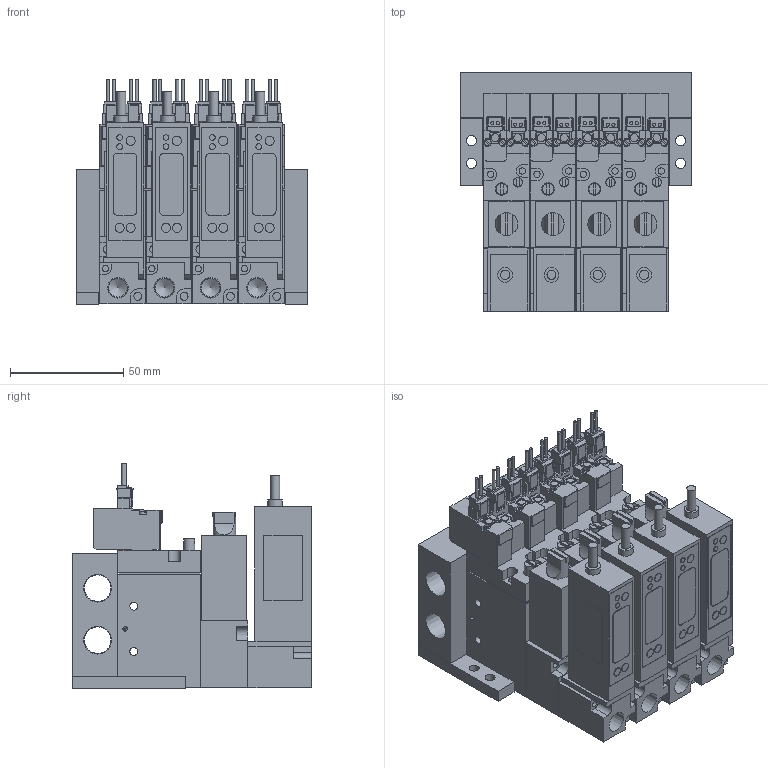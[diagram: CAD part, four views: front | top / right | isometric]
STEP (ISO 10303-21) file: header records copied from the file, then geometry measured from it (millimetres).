
FILE_DESCRIPTION(('STEP AP203'),'1');
FILE_NAME('BMPV32M2NV(R)G25AL404.stp','2025-06-17T00:49:22',(' '),(' '),'Spatial InterOp 3D',' ',' ');
FILE_SCHEMA(('CONFIG_CONTROL_DESIGN'));
Length unit declared in the file: millimetre
Products named in the file (52): BMPV32M2NV(R)G25AL404; Pressure sensor VGL; ___-3(Rc); Filter Assy; __; _____; ___ ___; MB04; MB BRACKET; ___; upper plate-A; ______; ____; VACUUM VALVE FUNCTION MPV42-A; UV280-4E
Assembly tree (51 placements, depth 2):
  BMPV32M2NV(R)G25AL404
    Pressure sensor VGL
    ___-3(Rc)
    Filter Assy
    __
    _____
    ___ ___
    Pressure sensor VGL
    ___-3(Rc)
    Filter Assy
    __
    _____
    ___ ___
    Pressure sensor VGL
    ___-3(Rc)
    Filter Assy
    __
    _____
    ___ ___
    MB04
    MB BRACKET
    MB BRACKET
    Pressure sensor VGL
    ___-3(Rc)
    Filter Assy
    __
    _____
    ___ ___
    ___
    upper plate-A
    ______
    ____
    VACUUM VALVE FUNCTION MPV42-A
    ___
    upper plate-A
    ______
    ____
    VACUUM VALVE FUNCTION MPV42-A
    ___
    upper plate-A
    ______
    ____
    VACUUM VALVE FUNCTION MPV42-A
    ___
    upper plate-A
    ______
    ____
    VACUUM VALVE FUNCTION MPV42-A
    UV280-4E
    UV280-4E
    UV280-4E
    UV280-4E
Bounding box: 102.5 x 105.5 x 99.75 mm (x, y, z)
Volume: 538243.1 mm3; surface area: 175914 mm2
Topology: 51 solids, 51 shells, 1623 faces, 4204 edges, 2792 vertices
Faces by surface type: plane 1289, cylinder 298, cone 36
Full cylindrical faces by diameter (mm): 1.4 x16, 1.8 x8, 2 x8, 2.5 x20, 2.8 x16, 3 x16, 3.5 x44, 4 x20, 4.2 x4, 4.5 x4, 5 x4, 5.5 x4, 6.5 x10, 8.2 x4, 8.759 x4, 11.776 x2
Entity records: 50426 total; most frequent: CARTESIAN_POINT 8587, DIRECTION 7950, ORIENTED_EDGE 7776, EDGE_CURVE 3888, LINE 3144, VECTOR 3144, VERTEX_POINT 2728, AXIS2_PLACEMENT_3D 2403
